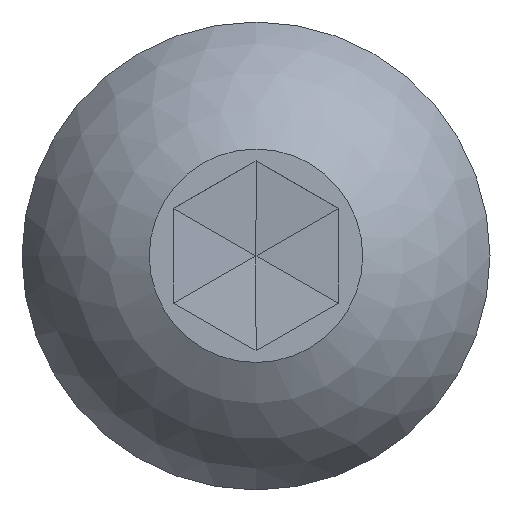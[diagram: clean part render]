
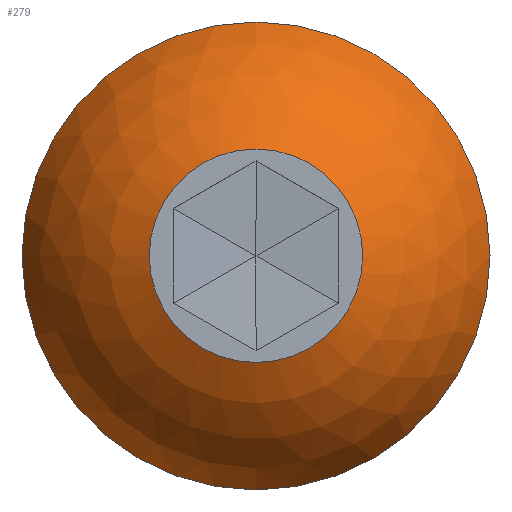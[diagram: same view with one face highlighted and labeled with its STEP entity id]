
A CAD part, top view. The second image highlights one B-rep face of the part: STEP entity #279.
In plain terms, the highlighted spherical face has radius 3.064 mm.
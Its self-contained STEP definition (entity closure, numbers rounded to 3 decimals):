
#19=SPHERICAL_SURFACE('',#320,3.064);
#57=FACE_OUTER_BOUND('',#78,.T.);
#78=EDGE_LOOP('',(#256,#257,#258,#259));
#136=CIRCLE('',#303,2.85);
#137=CIRCLE('',#313,1.3);
#138=CIRCLE('',#321,3.064);
#143=VERTEX_POINT('',#424);
#153=VERTEX_POINT('',#460);
#164=EDGE_CURVE('',#143,#143,#136,.T.);
#181=EDGE_CURVE('',#153,#153,#137,.T.);
#191=EDGE_CURVE('',#153,#143,#138,.T.);
#256=ORIENTED_EDGE('',*,*,#181,.T.);
#257=ORIENTED_EDGE('',*,*,#191,.T.);
#258=ORIENTED_EDGE('',*,*,#164,.F.);
#259=ORIENTED_EDGE('',*,*,#191,.F.);
#279=ADVANCED_FACE('',(#57),#19,.T.);
#303=AXIS2_PLACEMENT_3D('',#425,#344,#345);
#313=AXIS2_PLACEMENT_3D('',#461,#380,#381);
#320=AXIS2_PLACEMENT_3D('',#481,#403,#404);
#321=AXIS2_PLACEMENT_3D('',#482,#405,#406);
#344=DIRECTION('center_axis',(0.,0.,-1.));
#345=DIRECTION('ref_axis',(1.,0.,0.));
#380=DIRECTION('center_axis',(0.,0.,-1.));
#381=DIRECTION('ref_axis',(1.,0.,0.));
#403=DIRECTION('center_axis',(0.,0.,1.));
#404=DIRECTION('ref_axis',(1.,0.,0.));
#405=DIRECTION('center_axis',(0.,-1.,0.));
#406=DIRECTION('ref_axis',(-1.,0.,0.));
#424=CARTESIAN_POINT('',(-2.85,0.,0.));
#425=CARTESIAN_POINT('Origin',(0.,0.,0.));
#460=CARTESIAN_POINT('',(-1.3,0.,1.65));
#461=CARTESIAN_POINT('Origin',(0.,0.,1.65));
#481=CARTESIAN_POINT('Origin',(0.,0.,-1.124));
#482=CARTESIAN_POINT('Origin',(0.,0.,-1.124));
